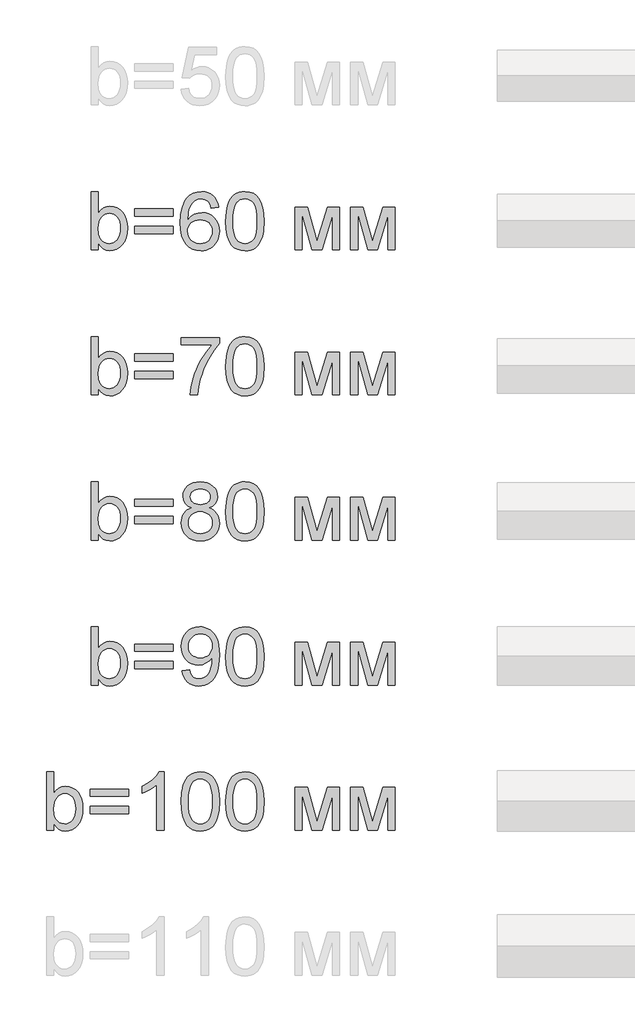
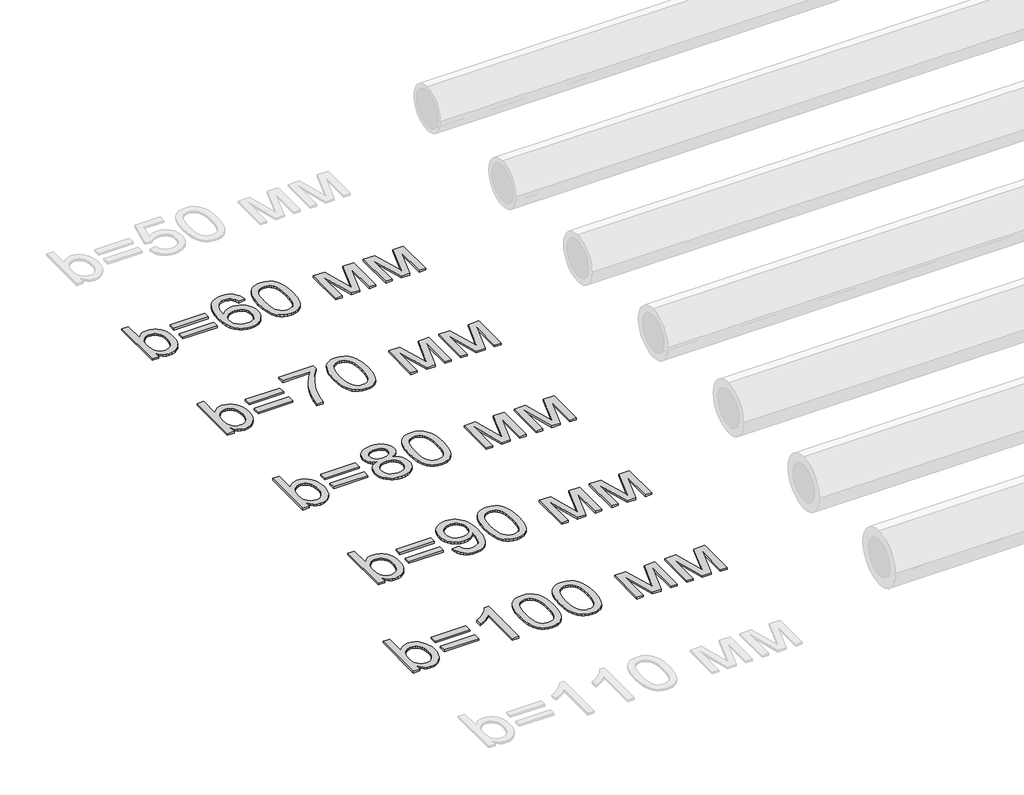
# One storey, part 64 of 86: 5 proxies.
"""IFC4 building model written with IfcOpenShell, lengths in millimetres."""

from ifc_helpers import new_model, si_unit, origin, origin_with_axes, place, context, project, spatial, polyline, outline, extrude, element, save

model = new_model("IFC4")

# Units and contexts
model_context = context("Model", 3, world=origin())
ifc_project = project(units=[si_unit("LENGTHUNIT", "METRE", prefix="MILLI")], contexts=[model_context])

# Site, building, storey
site = spatial("IfcSite", under=ifc_project)
building = spatial("IfcBuilding", under=site)
storey = spatial("IfcBuildingStorey", under=building, Name="Уровень 1", Elevation=0.0)

# Proxies
placement = place(None, origin())
element("IfcBuildingElementProxy", 1, Name="Текст модели 1", ObjectType="Текст модели 1", at=placement, inside=storey, context=model_context, shape_type="SweptSolid", body=[
    extrude(outline(polyline([(71159.6307988, 21669.2937088), (71084.2885662, 21669.2937088), (71084.2885662, 22272.0315697), (71159.6307988, 22272.0315697), (71159.6307988, 22048.5064694), (71184.4076512, 22080.3742473), (71212.3850769, 22103.1369457), (71243.563076, 22116.7945648), (71277.9416484, 22121.3471045), (71316.7531989, 22117.2452202), (71353.4310339, 22104.9395675), (71385.8782258, 22085.2026984), (71411.9978475, 22058.8071653), (71432.4704805, 22026.0104854), (71447.9767066, 21987.0701762), (71457.7439736, 21943.6049185), (71460.9997292, 21897.233393), (71457.6290105, 21843.7249568), (71447.5168541, 21796.6544555), (71430.6632602, 21756.0218892), (71407.0682288, 21721.8272577), (71378.7459136, 21694.7235517), (71347.7104688, 21675.3637617), (71313.9618943, 21663.7478877), (71277.50019, 21659.8759297), (71241.9903805, 21664.8699278), (71210.5088787, 21679.8519221), (71183.0556848, 21704.8219125), (71159.6307988, 21739.7798991), (71159.6307988, 21669.2937088)]), holes=[polyline([(71159.6307988, 21893.7017259), (71164.7811467, 21830.8674811), (71171.2190816, 21807.065516), (71180.2321905, 21788.3403224), (71198.4883345, 21765.0993774), (71219.7059286, 21748.4987024), (71243.8849727, 21738.5382973), (71271.0254669, 21735.2181623), (71293.5582391, 21737.6645776), (71314.5091188, 21745.0038234), (71333.8781058, 21757.2358997), (71351.6652003, 21774.3608066), (71366.5368299, 21796.3325588), (71377.1594225, 21823.105171), (71383.5329781, 21854.6786432), (71385.6574966, 21891.0529755), (71383.6203501, 21928.1170865), (71377.5089104, 21959.9940614), (71367.3231777, 21986.6839001), (71353.0631519, 22008.1866028), (71335.9152524, 22024.7320955), (71317.0658986, 22036.5503046), (71296.5150907, 22043.64123), (71274.2628285, 22046.0048719), (71251.7300563, 22043.5584566), (71230.7791767, 22036.2192108), (71211.4101896, 22023.9871344), (71193.6230951, 22006.8622276), (71178.7514655, 21985.1112046), (71168.1288729, 21959.00078), (71161.7553173, 21928.5309538), (71159.6307988, 21893.7017259)])]), origin_with_axes(), (0.0, 0.0, 1.0), 20.0),
    extrude(outline(polyline([(71931.8886831, 22017.7515346), (71536.3419619, 22017.7515346), (71536.3419619, 22093.0937672), (71931.8886831, 22093.0937672), (71931.8886831, 22017.7515346)])), origin_with_axes(), (0.0, 0.0, 1.0), 20.0),
    extrude(outline(polyline([(71931.8886831, 21838.8137322), (71536.3419619, 21838.8137322), (71536.3419619, 21914.1559648), (71931.8886831, 21914.1559648), (71931.8886831, 21838.8137322)])), origin_with_axes(), (0.0, 0.0, 1.0), 20.0),
    extrude(outline(polyline([(72402.7776369, 22111.9293254), (72327.4354043, 22102.5115463), (72315.2952984, 22139.8515688), (72298.8877615, 22165.3457911), (72282.6917566, 22179.0585925), (72264.7115241, 22188.8534506), (72244.9470639, 22194.7303655), (72223.398376, 22196.6893371), (72188.3760101, 22192.1276003), (72155.4137833, 22178.4423901), (72127.1052638, 22149.6188358), (72103.9838804, 22109.9427626), (72094.9477789, 22084.6370799), (72088.3672897, 22053.8223643), (72082.5731483, 21975.6658344), (72112.7946542, 22010.9273236), (72149.0126366, 22035.7777524), (72189.2037446, 22050.5114263), (72231.3446271, 22055.4226509), (72267.5442155, 22052.0657277), (72300.9479006, 22041.9949581), (72331.5556826, 22025.2103421), (72359.3675615, 22001.7118796), (72382.4797478, 21972.8975224), (72398.9884523, 21940.1652218), (72408.8936751, 21903.5149781), (72412.195416, 21862.9467911), (72410.6411145, 21835.4798016), (72405.9782103, 21808.9968965), (72398.2067031, 21783.4980757), (72387.3265931, 21758.9833392), (72373.7241563, 21736.3677936), (72357.7856689, 21716.5665452), (72339.5111308, 21699.5795941), (72318.900542, 21685.4069402), (72296.3953609, 21674.2371231), (72272.437046, 21666.2586823), (72247.0255972, 21661.4716179), (72220.1610145, 21659.8759297), (72175.2472214, 21664.1065727), (72134.6836329, 21676.7985015), (72098.470249, 21697.9517162), (72066.6070697, 21727.5662168), (72040.6300023, 21766.8928021), (72022.0749542, 21817.1822709), (72010.9419253, 21878.4346231), (72007.2309157, 21950.6498587), (72011.351194, 22031.6114888), (72023.7120291, 22100.7089245), (72044.3134208, 22157.9421659), (72057.7043254, 22182.1097138), (72073.1553692, 22203.311213), (72104.4161418, 22233.3763691), (72140.6617153, 22254.8514805), (72181.8920899, 22267.7365474), (72228.1072656, 22272.0315697), (72262.8077348, 22269.3736223), (72294.2156601, 22261.39978), (72322.3310416, 22248.110043), (72347.1538792, 22229.5044111), (72368.0127884, 22206.2082837), (72384.2363843, 22178.8470603), (72395.8246672, 22147.4207409), (72402.7776369, 22111.9293254)]), holes=[polyline([(72082.5731483, 21864.1240134), (72086.9325499, 21830.7387224), (72100.0107549, 21798.8617475), (72120.317841, 21771.4545389), (72146.3638863, 21751.4785465), (72177.7994027, 21739.2832584), (72214.2749026, 21735.2181623), (72240.4635021, 21737.3242868), (72263.9941542, 21743.64266), (72284.8668589, 21754.1732821), (72303.0816162, 21768.9161531), (72317.8566768, 21787.2734647), (72328.4102916, 21808.6474086), (72334.7424604, 21833.0379849), (72336.8531834, 21860.4451935), (72334.7700516, 21886.7809458), (72328.5206562, 21910.1644451), (72318.1049972, 21930.5956914), (72303.5230746, 21948.0746847), (72285.253135, 21962.0771932), (72263.773425, 21972.0789849), (72239.0839446, 21978.08006), (72211.1846938, 21980.0804183), (72185.3455822, 21978.08006), (72161.5390186, 21972.0789849), (72139.765003, 21962.0771932), (72120.0235354, 21948.0746847), (72103.638991, 21930.8256177), (72091.9357451, 21911.0841501), (72084.9137975, 21888.850282), (72082.5731483, 21864.1240134)])]), origin_with_axes(), (0.0, 0.0, 1.0), 20.0),
    extrude(outline(polyline([(72478.1198695, 21965.8065969), (72483.6564935, 22062.2836501), (72490.5772736, 22103.1967265), (72500.2663656, 22139.2261694), (72512.682383, 22170.6662845), (72527.7839389, 22197.8113772), (72545.5710333, 22220.6614476), (72566.0436664, 22239.2164957), (72589.2708158, 22253.5730906), (72615.3214596, 22263.8278012), (72644.1955977, 22269.9806276), (72675.8932301, 22272.0315697), (72722.3199379, 22267.1755274), (72763.8906034, 22252.6074004), (72798.6554519, 22228.8974058), (72824.664709, 22196.6157607), (72844.3096075, 22156.0383766), (72859.9813805, 22107.4411651), (72870.2452882, 22045.7289604), (72873.6665907, 21965.8065969), (72868.185149, 21869.8813667), (72861.3333468, 21829.106246), (72851.7408238, 21793.1227884), (72839.4213755, 21761.6688778), (72824.3887975, 21734.4823983), (72806.6430897, 21711.56335), (72786.1842523, 21692.9117329), (72762.9295116, 21678.458569), (72736.7960944, 21668.1348805), (72707.7840006, 21661.9406674), (72675.8932301, 21659.8759297), (72634.3961411, 21663.4627792), (72597.6079415, 21674.2233275), (72565.5286316, 21692.1575748), (72538.1582111, 21717.265521), (72511.8914367, 21762.6529621), (72493.1294549, 21819.2056218), (72481.8722659, 21886.9235001), (72478.1198695, 21965.8065969)]), holes=[polyline([(72553.4621021, 21965.9537497), (72555.6693941, 21900.456959), (72562.29127, 21847.440565), (72573.3277299, 21806.9045676), (72588.7787737, 21778.848967), (72607.467179, 21759.7604899), (72628.2157235, 21746.1258635), (72651.0244072, 21737.9450876), (72675.8932301, 21735.2181623), (72700.762053, 21737.9542847), (72723.5707367, 21746.1626517), (72744.3192812, 21759.8432634), (72763.0076866, 21778.9961198), (72778.4587304, 21807.0977057), (72789.4951902, 21847.624506), (72796.1170661, 21900.5765206), (72798.3243581, 21965.9537497), (72796.1906425, 22029.7168965), (72789.7894958, 22081.79979), (72779.120918, 22122.2024301), (72764.184909, 22150.9248169), (72745.8092033, 22170.9467945), (72724.8215355, 22185.248207), (72701.2219055, 22193.8290546), (72675.0103133, 22196.6893371), (72650.2702492, 22194.1693454), (72627.8478415, 22186.6093704), (72607.7430905, 22174.0094121), (72589.955996, 22156.3694704), (72573.9899175, 22125.0995008), (72562.5855756, 22082.9402242), (72555.7429705, 22029.8916405), (72553.4621021, 21965.9537497)])]), origin_with_axes(), (0.0, 0.0, 1.0), 20.0),
    extrude(outline(polyline([(73193.8710793, 22111.9293254), (73323.5126944, 22111.9293254), (73423.4294443, 21757.5853876), (73531.1452925, 22111.9293254), (73655.3422541, 22111.9293254), (73655.3422541, 21669.2937088), (73580.0000215, 21669.2937088), (73580.0000215, 22025.6977857), (73471.6955621, 21669.2937088), (73372.8088818, 21669.2937088), (73269.2133119, 22042.7675103), (73269.2133119, 21669.2937088), (73193.8710793, 21669.2937088), (73193.8710793, 22111.9293254)])), origin_with_axes(), (0.0, 0.0, 1.0), 20.0),
    extrude(outline(polyline([(73768.355603, 22111.9293254), (73897.9972181, 22111.9293254), (73997.913968, 21757.5853876), (74105.6298162, 22111.9293254), (74229.8267777, 22111.9293254), (74229.8267777, 21669.2937088), (74154.4845451, 21669.2937088), (74154.4845451, 22025.6977857), (74046.1800857, 21669.2937088), (73947.2934054, 21669.2937088), (73843.6978356, 22042.7675103), (73843.6978356, 21669.2937088), (73768.355603, 21669.2937088), (73768.355603, 22111.9293254)])), origin_with_axes(), (0.0, 0.0, 1.0), 20.0),
])
element("IfcBuildingElementProxy", 2, Name="Текст модели 1", ObjectType="Текст модели 1", at=placement, inside=storey, context=model_context, shape_type="SweptSolid", body=[
    extrude(outline(polyline([(71159.6307988, 20169.2937088), (71084.2885662, 20169.2937088), (71084.2885662, 20772.0315697), (71159.6307988, 20772.0315697), (71159.6307988, 20548.5064694), (71184.4076512, 20580.3742473), (71212.3850769, 20603.1369457), (71243.563076, 20616.7945648), (71277.9416484, 20621.3471045), (71316.7531989, 20617.2452202), (71353.4310339, 20604.9395675), (71385.8782258, 20585.2026984), (71411.9978475, 20558.8071653), (71432.4704805, 20526.0104854), (71447.9767066, 20487.0701762), (71457.7439736, 20443.6049185), (71460.9997292, 20397.233393), (71457.6290105, 20343.7249568), (71447.5168541, 20296.6544555), (71430.6632602, 20256.0218892), (71407.0682288, 20221.8272577), (71378.7459136, 20194.7235517), (71347.7104688, 20175.3637617), (71313.9618943, 20163.7478877), (71277.50019, 20159.8759297), (71241.9903805, 20164.8699278), (71210.5088787, 20179.8519221), (71183.0556848, 20204.8219125), (71159.6307988, 20239.7798991), (71159.6307988, 20169.2937088)]), holes=[polyline([(71159.6307988, 20393.7017259), (71164.7811467, 20330.8674811), (71171.2190816, 20307.065516), (71180.2321905, 20288.3403224), (71198.4883345, 20265.0993774), (71219.7059286, 20248.4987024), (71243.8849727, 20238.5382973), (71271.0254669, 20235.2181623), (71293.5582391, 20237.6645776), (71314.5091188, 20245.0038234), (71333.8781058, 20257.2358997), (71351.6652003, 20274.3608066), (71366.5368299, 20296.3325588), (71377.1594225, 20323.105171), (71383.5329781, 20354.6786432), (71385.6574966, 20391.0529755), (71383.6203501, 20428.1170865), (71377.5089104, 20459.9940614), (71367.3231777, 20486.6839001), (71353.0631519, 20508.1866028), (71335.9152524, 20524.7320955), (71317.0658986, 20536.5503046), (71296.5150907, 20543.64123), (71274.2628285, 20546.0048719), (71251.7300563, 20543.5584566), (71230.7791767, 20536.2192108), (71211.4101896, 20523.9871344), (71193.6230951, 20506.8622276), (71178.7514655, 20485.1112046), (71168.1288729, 20459.00078), (71161.7553173, 20428.5309538), (71159.6307988, 20393.7017259)])]), origin_with_axes(), (0.0, 0.0, 1.0), 20.0),
    extrude(outline(polyline([(71931.8886831, 20517.7515346), (71536.3419619, 20517.7515346), (71536.3419619, 20593.0937672), (71931.8886831, 20593.0937672), (71931.8886831, 20517.7515346)])), origin_with_axes(), (0.0, 0.0, 1.0), 20.0),
    extrude(outline(polyline([(71931.8886831, 20338.8137322), (71536.3419619, 20338.8137322), (71536.3419619, 20414.1559648), (71931.8886831, 20414.1559648), (71931.8886831, 20338.8137322)])), origin_with_axes(), (0.0, 0.0, 1.0), 20.0),
    extrude(outline(polyline([(72016.6486948, 20687.271558), (72016.6486948, 20762.6137906), (72412.195416, 20762.6137906), (72412.195416, 20701.6925322), (72355.8175002, 20630.3418193), (72299.9914074, 20539.6037251), (72250.7504024, 20437.7555948), (72230.861782, 20385.7692703), (72214.1277498, 20333.0747731), (72196.1751084, 20254.7526963), (72186.1687181, 20169.2937088), (72110.8264855, 20169.2937088), (72118.9750717, 20246.953598), (72140.7720799, 20339.2551906), (72156.6415895, 20388.6203558), (72175.628899, 20437.0934072), (72197.7340084, 20484.6743447), (72222.9569177, 20531.3631685), (72278.2127933, 20616.5830326), (72336.8531834, 20687.271558), (72016.6486948, 20687.271558)])), origin_with_axes(), (0.0, 0.0, 1.0), 20.0),
    extrude(outline(polyline([(72478.1198695, 20465.8065969), (72483.6564935, 20562.2836501), (72490.5772736, 20603.1967265), (72500.2663656, 20639.2261694), (72512.682383, 20670.6662845), (72527.7839389, 20697.8113772), (72545.5710333, 20720.6614476), (72566.0436664, 20739.2164957), (72589.2708158, 20753.5730906), (72615.3214596, 20763.8278012), (72644.1955977, 20769.9806276), (72675.8932301, 20772.0315697), (72722.3199379, 20767.1755274), (72763.8906034, 20752.6074004), (72798.6554519, 20728.8974058), (72824.664709, 20696.6157607), (72844.3096075, 20656.0383766), (72859.9813805, 20607.4411651), (72870.2452882, 20545.7289604), (72873.6665907, 20465.8065969), (72868.185149, 20369.8813667), (72861.3333468, 20329.106246), (72851.7408238, 20293.1227884), (72839.4213755, 20261.6688778), (72824.3887975, 20234.4823983), (72806.6430897, 20211.56335), (72786.1842523, 20192.9117329), (72762.9295116, 20178.458569), (72736.7960944, 20168.1348805), (72707.7840006, 20161.9406674), (72675.8932301, 20159.8759297), (72634.3961411, 20163.4627792), (72597.6079415, 20174.2233275), (72565.5286316, 20192.1575748), (72538.1582111, 20217.265521), (72511.8914367, 20262.6529621), (72493.1294549, 20319.2056218), (72481.8722659, 20386.9235001), (72478.1198695, 20465.8065969)]), holes=[polyline([(72553.4621021, 20465.9537497), (72555.6693941, 20400.456959), (72562.29127, 20347.440565), (72573.3277299, 20306.9045676), (72588.7787737, 20278.848967), (72607.467179, 20259.7604899), (72628.2157235, 20246.1258635), (72651.0244072, 20237.9450876), (72675.8932301, 20235.2181623), (72700.762053, 20237.9542847), (72723.5707367, 20246.1626517), (72744.3192812, 20259.8432634), (72763.0076866, 20278.9961198), (72778.4587304, 20307.0977057), (72789.4951902, 20347.624506), (72796.1170661, 20400.5765206), (72798.3243581, 20465.9537497), (72796.1906425, 20529.7168965), (72789.7894958, 20581.79979), (72779.120918, 20622.2024301), (72764.184909, 20650.9248169), (72745.8092033, 20670.9467945), (72724.8215355, 20685.248207), (72701.2219055, 20693.8290546), (72675.0103133, 20696.6893371), (72650.2702492, 20694.1693454), (72627.8478415, 20686.6093704), (72607.7430905, 20674.0094121), (72589.955996, 20656.3694704), (72573.9899175, 20625.0995008), (72562.5855756, 20582.9402242), (72555.7429705, 20529.8916405), (72553.4621021, 20465.9537497)])]), origin_with_axes(), (0.0, 0.0, 1.0), 20.0),
    extrude(outline(polyline([(73193.8710793, 20611.9293254), (73323.5126944, 20611.9293254), (73423.4294443, 20257.5853876), (73531.1452925, 20611.9293254), (73655.3422541, 20611.9293254), (73655.3422541, 20169.2937088), (73580.0000215, 20169.2937088), (73580.0000215, 20525.6977857), (73471.6955621, 20169.2937088), (73372.8088818, 20169.2937088), (73269.2133119, 20542.7675103), (73269.2133119, 20169.2937088), (73193.8710793, 20169.2937088), (73193.8710793, 20611.9293254)])), origin_with_axes(), (0.0, 0.0, 1.0), 20.0),
    extrude(outline(polyline([(73768.355603, 20611.9293254), (73897.9972181, 20611.9293254), (73997.913968, 20257.5853876), (74105.6298162, 20611.9293254), (74229.8267777, 20611.9293254), (74229.8267777, 20169.2937088), (74154.4845451, 20169.2937088), (74154.4845451, 20525.6977857), (74046.1800857, 20169.2937088), (73947.2934054, 20169.2937088), (73843.6978356, 20542.7675103), (73843.6978356, 20169.2937088), (73768.355603, 20169.2937088), (73768.355603, 20611.9293254)])), origin_with_axes(), (0.0, 0.0, 1.0), 20.0),
])
element("IfcBuildingElementProxy", 3, Name="Текст модели 1", ObjectType="Текст модели 1", at=placement, inside=storey, context=model_context, shape_type="SweptSolid", body=[
    extrude(outline(polyline([(71159.6307988, 18669.2937088), (71084.2885662, 18669.2937088), (71084.2885662, 19272.0315697), (71159.6307988, 19272.0315697), (71159.6307988, 19048.5064694), (71184.4076512, 19080.3742473), (71212.3850769, 19103.1369457), (71243.563076, 19116.7945648), (71277.9416484, 19121.3471045), (71316.7531989, 19117.2452202), (71353.4310339, 19104.9395675), (71385.8782258, 19085.2026984), (71411.9978475, 19058.8071653), (71432.4704805, 19026.0104854), (71447.9767066, 18987.0701762), (71457.7439736, 18943.6049185), (71460.9997292, 18897.233393), (71457.6290105, 18843.7249568), (71447.5168541, 18796.6544555), (71430.6632602, 18756.0218892), (71407.0682288, 18721.8272577), (71378.7459136, 18694.7235517), (71347.7104688, 18675.3637617), (71313.9618943, 18663.7478877), (71277.50019, 18659.8759297), (71241.9903805, 18664.8699278), (71210.5088787, 18679.8519221), (71183.0556848, 18704.8219125), (71159.6307988, 18739.7798991), (71159.6307988, 18669.2937088)]), holes=[polyline([(71159.6307988, 18893.7017259), (71164.7811467, 18830.8674811), (71171.2190816, 18807.065516), (71180.2321905, 18788.3403224), (71198.4883345, 18765.0993774), (71219.7059286, 18748.4987024), (71243.8849727, 18738.5382973), (71271.0254669, 18735.2181623), (71293.5582391, 18737.6645776), (71314.5091188, 18745.0038234), (71333.8781058, 18757.2358997), (71351.6652003, 18774.3608066), (71366.5368299, 18796.3325588), (71377.1594225, 18823.105171), (71383.5329781, 18854.6786432), (71385.6574966, 18891.0529755), (71383.6203501, 18928.1170865), (71377.5089104, 18959.9940614), (71367.3231777, 18986.6839001), (71353.0631519, 19008.1866028), (71335.9152524, 19024.7320955), (71317.0658986, 19036.5503046), (71296.5150907, 19043.64123), (71274.2628285, 19046.0048719), (71251.7300563, 19043.5584566), (71230.7791767, 19036.2192108), (71211.4101896, 19023.9871344), (71193.6230951, 19006.8622276), (71178.7514655, 18985.1112046), (71168.1288729, 18959.00078), (71161.7553173, 18928.5309538), (71159.6307988, 18893.7017259)])]), origin_with_axes(), (0.0, 0.0, 1.0), 20.0),
    extrude(outline(polyline([(71931.8886831, 19017.7515346), (71536.3419619, 19017.7515346), (71536.3419619, 19093.0937672), (71931.8886831, 19093.0937672), (71931.8886831, 19017.7515346)])), origin_with_axes(), (0.0, 0.0, 1.0), 20.0),
    extrude(outline(polyline([(71931.8886831, 18838.8137322), (71536.3419619, 18838.8137322), (71536.3419619, 18914.1559648), (71931.8886831, 18914.1559648), (71931.8886831, 18838.8137322)])), origin_with_axes(), (0.0, 0.0, 1.0), 20.0),
    extrude(outline(polyline([(72126.4246821, 19001.2704212), (72086.0864213, 19021.136049), (72070.4284439, 19033.7176132), (72057.7779018, 19048.065011), (72041.0576651, 19081.5054844), (72035.4842529, 19120.9056461), (72038.5192794, 19151.6329897), (72047.6243588, 19179.8035535), (72062.7994911, 19205.4173374), (72084.0446763, 19228.4743415), (72110.3390419, 19247.5306288), (72140.6617153, 19261.1422626), (72175.0126966, 19269.3092429), (72213.3919858, 19272.0315697), (72251.9552159, 19269.2448636), (72286.5637146, 19260.8847452), (72317.2174819, 19246.9512147), (72343.9165177, 19227.4442719), (72365.547979, 19203.9366124), (72380.9990228, 19178.0009317), (72390.2696491, 19149.6372299), (72393.3598578, 19118.8455069), (72387.860022, 19080.7145381), (72371.3605145, 19047.8442818), (72358.9398986, 19033.593453), (72343.6773944, 19021.0808667), (72304.6267206, 19001.2704212), (72329.3897774, 18990.7352006), (72350.9982461, 18977.3764857), (72369.4521267, 18961.1942764), (72384.7514191, 18942.1885728), (72396.7581677, 18920.7824392), (72405.3344168, 18897.3989399), (72410.4801662, 18872.0380749), (72412.195416, 18844.6998441), (72408.7925075, 18807.1206983), (72398.5837822, 18772.6685494), (72381.5692399, 18741.3433976), (72357.7488807, 18713.1452426), (72328.3735034, 18689.8399182), (72294.6939067, 18673.1932579), (72256.7100907, 18663.2052618), (72214.4220554, 18659.8759297), (72172.13402, 18663.2190574), (72134.150204, 18673.2484402), (72100.4706074, 18689.9640784), (72071.09523, 18713.3659718), (72047.2748709, 18741.7618633), (72030.2603286, 18773.4594957), (72020.0516032, 18808.458869), (72016.6486948, 18846.7599833), (72018.4329224, 18875.3444143), (72023.7856055, 18901.5008242), (72032.7067438, 18925.2292128), (72045.1963376, 18946.5295804), (72060.9784752, 18965.0156506), (72079.7772451, 18980.3011475), (72101.5926474, 18992.3860711), (72126.4246821, 19001.2704212)]), holes=[polyline([(72110.8264855, 19118.6983541), (72112.4957501, 19101.4262944), (72117.5035437, 19085.8097037), (72125.8498665, 19071.848582), (72137.5347184, 19059.5429293), (72152.4109466, 19049.4997508), (72170.3313982, 19042.3260519), (72191.2960734, 19038.0218326), (72215.3049722, 19036.5870928), (72238.7206611, 19038.0126355), (72259.2300824, 19042.2892637), (72276.8332358, 19049.4169774), (72291.5301216, 19059.3957765), (72303.1184044, 19071.4439118), (72311.3957493, 19084.7796342), (72316.3621562, 19099.4029435), (72318.0176252, 19115.3138398), (72316.3069739, 19131.8455369), (72311.1750201, 19147.0068736), (72302.6217637, 19160.7978499), (72290.6472048, 19173.2184658), (72275.6192253, 19183.486972), (72257.9057072, 19190.8216193), (72237.5066506, 19195.2224076), (72214.4220554, 19196.6893371), (72191.1581177, 19195.2545973), (72170.662492, 19190.950378), (72152.9351784, 19183.7766791), (72137.9761768, 19173.7335006), (72126.0981868, 19161.6853652), (72117.6139083, 19148.4967957), (72112.5233412, 19134.167792), (72110.8264855, 19118.6983541)]), polyline([(72091.9909274, 18849.4087336), (72095.1363184, 18820.5851793), (72104.5724916, 18792.68133), (72121.9917041, 18768.345936), (72149.086213, 18750.2277477), (72181.533405, 18738.9705587), (72215.0106666, 18735.2181623), (72242.2523283, 18737.1909295), (72266.2934167, 18743.1092311), (72287.1339317, 18752.9730671), (72304.7738734, 18766.7824375), (72318.8085715, 18783.6360314), (72328.8333559, 18802.632538), (72334.8482265, 18823.7719571), (72336.8531834, 18847.0542889), (72334.7838471, 18870.7091012), (72328.5758385, 18892.2301979), (72318.2291574, 18911.617579), (72303.7438038, 18928.8712446), (72285.6256155, 18943.0347014), (72264.3804303, 18953.1514563), (72240.0082481, 18959.2215092), (72212.509069, 18961.2448602), (72185.6674789, 18959.2491003), (72161.9436888, 18953.2618209), (72141.3376985, 18943.2830218), (72123.8495082, 18929.312703), (72109.9113791, 18912.344146), (72099.9555726, 18893.3706321), (72093.9820887, 18872.3921613), (72091.9909274, 18849.4087336)])]), origin_with_axes(), (0.0, 0.0, 1.0), 20.0),
    extrude(outline(polyline([(72478.1198695, 18965.8065969), (72483.6564935, 19062.2836501), (72490.5772736, 19103.1967265), (72500.2663656, 19139.2261694), (72512.682383, 19170.6662845), (72527.7839389, 19197.8113772), (72545.5710333, 19220.6614476), (72566.0436664, 19239.2164957), (72589.2708158, 19253.5730906), (72615.3214596, 19263.8278012), (72644.1955977, 19269.9806276), (72675.8932301, 19272.0315697), (72722.3199379, 19267.1755274), (72763.8906034, 19252.6074004), (72798.6554519, 19228.8974058), (72824.664709, 19196.6157607), (72844.3096075, 19156.0383766), (72859.9813805, 19107.4411651), (72870.2452882, 19045.7289604), (72873.6665907, 18965.8065969), (72868.185149, 18869.8813667), (72861.3333468, 18829.106246), (72851.7408238, 18793.1227884), (72839.4213755, 18761.6688778), (72824.3887975, 18734.4823983), (72806.6430897, 18711.56335), (72786.1842523, 18692.9117329), (72762.9295116, 18678.458569), (72736.7960944, 18668.1348805), (72707.7840006, 18661.9406674), (72675.8932301, 18659.8759297), (72634.3961411, 18663.4627792), (72597.6079415, 18674.2233275), (72565.5286316, 18692.1575748), (72538.1582111, 18717.265521), (72511.8914367, 18762.6529621), (72493.1294549, 18819.2056218), (72481.8722659, 18886.9235001), (72478.1198695, 18965.8065969)]), holes=[polyline([(72553.4621021, 18965.9537497), (72555.6693941, 18900.456959), (72562.29127, 18847.440565), (72573.3277299, 18806.9045676), (72588.7787737, 18778.848967), (72607.467179, 18759.7604899), (72628.2157235, 18746.1258635), (72651.0244072, 18737.9450876), (72675.8932301, 18735.2181623), (72700.762053, 18737.9542847), (72723.5707367, 18746.1626517), (72744.3192812, 18759.8432634), (72763.0076866, 18778.9961198), (72778.4587304, 18807.0977057), (72789.4951902, 18847.624506), (72796.1170661, 18900.5765206), (72798.3243581, 18965.9537497), (72796.1906425, 19029.7168965), (72789.7894958, 19081.79979), (72779.120918, 19122.2024301), (72764.184909, 19150.9248169), (72745.8092033, 19170.9467945), (72724.8215355, 19185.248207), (72701.2219055, 19193.8290546), (72675.0103133, 19196.6893371), (72650.2702492, 19194.1693454), (72627.8478415, 19186.6093704), (72607.7430905, 19174.0094121), (72589.955996, 19156.3694704), (72573.9899175, 19125.0995008), (72562.5855756, 19082.9402242), (72555.7429705, 19029.8916405), (72553.4621021, 18965.9537497)])]), origin_with_axes(), (0.0, 0.0, 1.0), 20.0),
    extrude(outline(polyline([(73193.8710793, 19111.9293254), (73323.5126944, 19111.9293254), (73423.4294443, 18757.5853876), (73531.1452925, 19111.9293254), (73655.3422541, 19111.9293254), (73655.3422541, 18669.2937088), (73580.0000215, 18669.2937088), (73580.0000215, 19025.6977857), (73471.6955621, 18669.2937088), (73372.8088818, 18669.2937088), (73269.2133119, 19042.7675103), (73269.2133119, 18669.2937088), (73193.8710793, 18669.2937088), (73193.8710793, 19111.9293254)])), origin_with_axes(), (0.0, 0.0, 1.0), 20.0),
    extrude(outline(polyline([(73768.355603, 19111.9293254), (73897.9972181, 19111.9293254), (73997.913968, 18757.5853876), (74105.6298162, 19111.9293254), (74229.8267777, 19111.9293254), (74229.8267777, 18669.2937088), (74154.4845451, 18669.2937088), (74154.4845451, 19025.6977857), (74046.1800857, 18669.2937088), (73947.2934054, 18669.2937088), (73843.6978356, 19042.7675103), (73843.6978356, 18669.2937088), (73768.355603, 18669.2937088), (73768.355603, 19111.9293254)])), origin_with_axes(), (0.0, 0.0, 1.0), 20.0),
])
element("IfcBuildingElementProxy", 4, Name="Текст модели 1", ObjectType="Текст модели 1", at=placement, inside=storey, context=model_context, shape_type="SweptSolid", body=[
    extrude(outline(polyline([(71159.6307988, 17169.2937088), (71084.2885662, 17169.2937088), (71084.2885662, 17772.0315697), (71159.6307988, 17772.0315697), (71159.6307988, 17548.5064694), (71184.4076512, 17580.3742473), (71212.3850769, 17603.1369457), (71243.563076, 17616.7945648), (71277.9416484, 17621.3471045), (71316.7531989, 17617.2452202), (71353.4310339, 17604.9395675), (71385.8782258, 17585.2026984), (71411.9978475, 17558.8071653), (71432.4704805, 17526.0104854), (71447.9767066, 17487.0701762), (71457.7439736, 17443.6049185), (71460.9997292, 17397.233393), (71457.6290105, 17343.7249568), (71447.5168541, 17296.6544555), (71430.6632602, 17256.0218892), (71407.0682288, 17221.8272577), (71378.7459136, 17194.7235517), (71347.7104688, 17175.3637617), (71313.9618943, 17163.7478877), (71277.50019, 17159.8759297), (71241.9903805, 17164.8699278), (71210.5088787, 17179.8519221), (71183.0556848, 17204.8219125), (71159.6307988, 17239.7798991), (71159.6307988, 17169.2937088)]), holes=[polyline([(71159.6307988, 17393.7017259), (71164.7811467, 17330.8674811), (71171.2190816, 17307.065516), (71180.2321905, 17288.3403224), (71198.4883345, 17265.0993774), (71219.7059286, 17248.4987024), (71243.8849727, 17238.5382973), (71271.0254669, 17235.2181623), (71293.5582391, 17237.6645776), (71314.5091188, 17245.0038234), (71333.8781058, 17257.2358997), (71351.6652003, 17274.3608066), (71366.5368299, 17296.3325588), (71377.1594225, 17323.105171), (71383.5329781, 17354.6786432), (71385.6574966, 17391.0529755), (71383.6203501, 17428.1170865), (71377.5089104, 17459.9940614), (71367.3231777, 17486.6839001), (71353.0631519, 17508.1866028), (71335.9152524, 17524.7320955), (71317.0658986, 17536.5503046), (71296.5150907, 17543.64123), (71274.2628285, 17546.0048719), (71251.7300563, 17543.5584566), (71230.7791767, 17536.2192108), (71211.4101896, 17523.9871344), (71193.6230951, 17506.8622276), (71178.7514655, 17485.1112046), (71168.1288729, 17459.00078), (71161.7553173, 17428.5309538), (71159.6307988, 17393.7017259)])]), origin_with_axes(), (0.0, 0.0, 1.0), 20.0),
    extrude(outline(polyline([(71931.8886831, 17517.7515346), (71536.3419619, 17517.7515346), (71536.3419619, 17593.0937672), (71931.8886831, 17593.0937672), (71931.8886831, 17517.7515346)])), origin_with_axes(), (0.0, 0.0, 1.0), 20.0),
    extrude(outline(polyline([(71931.8886831, 17338.8137322), (71536.3419619, 17338.8137322), (71536.3419619, 17414.1559648), (71931.8886831, 17414.1559648), (71931.8886831, 17338.8137322)])), origin_with_axes(), (0.0, 0.0, 1.0), 20.0),
    extrude(outline(polyline([(72026.0664738, 17319.978174), (72101.4087064, 17329.3959531), (72114.2845763, 17286.6296712), (72123.7575377, 17270.3646884), (72135.25385, 17257.5118112), (72148.6447546, 17247.7583398), (72163.8014928, 17240.7915746), (72199.41247, 17235.2181623), (72231.3630212, 17238.8050118), (72260.4073048, 17249.5655601), (72284.5403636, 17266.322585), (72301.757241, 17287.898864), (72314.7986577, 17316.2625659), (72326.4053347, 17353.3818592), (72334.572315, 17395.9825942), (72337.2946418, 17440.7906212), (72336.8531834, 17455.505901), (72310.7519558, 17423.6473203), (72276.5941126, 17398.4106154), (72236.844463, 17381.9662902), (72193.9678164, 17376.4848485), (72158.1774968, 17379.8325746), (72125.2658538, 17389.8757531), (72095.2328875, 17406.6143839), (72068.0785977, 17430.048467), (72045.5780152, 17458.9547948), (72029.5061705, 17492.1101596), (72019.8630637, 17529.5145614), (72016.6486948, 17571.1680003), (72020.0194135, 17614.2101938), (72030.1315699, 17652.8378033), (72046.9851638, 17687.0508288), (72070.5801953, 17716.8492704), (72099.2519983, 17740.9915264), (72131.3359068, 17758.2359949), (72166.8319208, 17768.582676), (72205.7400403, 17772.0315697), (72234.4670256, 17770.063401), (72261.934015, 17764.158895), (72288.1410087, 17754.3180516), (72313.0880065, 17740.5408709), (72335.9426754, 17723.1216584), (72355.8726825, 17702.3547198), (72372.8780277, 17678.240055), (72386.9587111, 17650.7776641), (72397.9997695, 17618.3856544), (72405.8862398, 17579.4821334), (72410.6181219, 17534.0671011), (72412.195416, 17482.1405575), (72410.6227204, 17427.6066502), (72405.9046339, 17378.9312638), (72398.0411562, 17336.114398), (72387.0322875, 17299.1560531), (72372.9194145, 17267.154918), (72355.7439238, 17239.209682), (72335.5058156, 17215.3203449), (72312.2050897, 17195.4869069), (72286.3107957, 17179.9071044), (72258.2919833, 17168.778674), (72228.1486523, 17162.1016158), (72195.8808028, 17159.8759297), (72162.0448563, 17162.5016875), (72131.4646655, 17170.3789607), (72104.1402303, 17183.5077494), (72080.0715507, 17201.8880536), (72059.8656321, 17225.0232325), (72044.1294798, 17252.4166456), (72032.8630937, 17284.0682928), (72026.0664738, 17319.978174)]), holes=[polyline([(72336.8531834, 17572.9338339), (72334.8206353, 17599.9363724), (72328.7229913, 17623.9958548), (72318.5602511, 17645.1122814), (72304.332415, 17663.2856519), (72286.7384586, 17677.8997642), (72266.4773577, 17688.3384158), (72243.5491123, 17694.6016068), (72217.9537225, 17696.6893371), (72191.5397953, 17694.4406584), (72167.6274656, 17687.6946223), (72146.2167335, 17676.4512288), (72127.3075989, 17660.710478), (72111.8565551, 17641.3920747), (72100.8200953, 17619.415724), (72094.1982193, 17594.7814259), (72091.9909274, 17567.4891804), (72094.0786577, 17543.0112321), (72100.3418487, 17520.9337139), (72110.7805003, 17501.2566257), (72125.3946125, 17483.9799675), (72143.5771801, 17469.9130797), (72164.7211978, 17459.8653027), (72188.8266656, 17453.8366365), (72215.8935833, 17451.8270811), (72241.1348867, 17453.8366365), (72264.0309424, 17459.8653027), (72284.5817504, 17469.9130797), (72302.7873106, 17483.9799675), (72317.6911299, 17501.5969165), (72328.3367152, 17522.2948773), (72334.7240663, 17546.0738497), (72336.8531834, 17572.9338339)])]), origin_with_axes(), (0.0, 0.0, 1.0), 20.0),
    extrude(outline(polyline([(72478.1198695, 17465.8065969), (72483.6564935, 17562.2836501), (72490.5772736, 17603.1967265), (72500.2663656, 17639.2261694), (72512.682383, 17670.6662845), (72527.7839389, 17697.8113772), (72545.5710333, 17720.6614476), (72566.0436664, 17739.2164957), (72589.2708158, 17753.5730906), (72615.3214596, 17763.8278012), (72644.1955977, 17769.9806276), (72675.8932301, 17772.0315697), (72722.3199379, 17767.1755274), (72763.8906034, 17752.6074004), (72798.6554519, 17728.8974058), (72824.664709, 17696.6157607), (72844.3096075, 17656.0383766), (72859.9813805, 17607.4411651), (72870.2452882, 17545.7289604), (72873.6665907, 17465.8065969), (72868.185149, 17369.8813667), (72861.3333468, 17329.106246), (72851.7408238, 17293.1227884), (72839.4213755, 17261.6688778), (72824.3887975, 17234.4823983), (72806.6430897, 17211.56335), (72786.1842523, 17192.9117329), (72762.9295116, 17178.458569), (72736.7960944, 17168.1348805), (72707.7840006, 17161.9406674), (72675.8932301, 17159.8759297), (72634.3961411, 17163.4627792), (72597.6079415, 17174.2233275), (72565.5286316, 17192.1575748), (72538.1582111, 17217.265521), (72511.8914367, 17262.6529621), (72493.1294549, 17319.2056218), (72481.8722659, 17386.9235001), (72478.1198695, 17465.8065969)]), holes=[polyline([(72553.4621021, 17465.9537497), (72555.6693941, 17400.456959), (72562.29127, 17347.440565), (72573.3277299, 17306.9045676), (72588.7787737, 17278.848967), (72607.467179, 17259.7604899), (72628.2157235, 17246.1258635), (72651.0244072, 17237.9450876), (72675.8932301, 17235.2181623), (72700.762053, 17237.9542847), (72723.5707367, 17246.1626517), (72744.3192812, 17259.8432634), (72763.0076866, 17278.9961198), (72778.4587304, 17307.0977057), (72789.4951902, 17347.624506), (72796.1170661, 17400.5765206), (72798.3243581, 17465.9537497), (72796.1906425, 17529.7168965), (72789.7894958, 17581.79979), (72779.120918, 17622.2024301), (72764.184909, 17650.9248169), (72745.8092033, 17670.9467945), (72724.8215355, 17685.248207), (72701.2219055, 17693.8290546), (72675.0103133, 17696.6893371), (72650.2702492, 17694.1693454), (72627.8478415, 17686.6093704), (72607.7430905, 17674.0094121), (72589.955996, 17656.3694704), (72573.9899175, 17625.0995008), (72562.5855756, 17582.9402242), (72555.7429705, 17529.8916405), (72553.4621021, 17465.9537497)])]), origin_with_axes(), (0.0, 0.0, 1.0), 20.0),
    extrude(outline(polyline([(73193.8710793, 17611.9293254), (73323.5126944, 17611.9293254), (73423.4294443, 17257.5853876), (73531.1452925, 17611.9293254), (73655.3422541, 17611.9293254), (73655.3422541, 17169.2937088), (73580.0000215, 17169.2937088), (73580.0000215, 17525.6977857), (73471.6955621, 17169.2937088), (73372.8088818, 17169.2937088), (73269.2133119, 17542.7675103), (73269.2133119, 17169.2937088), (73193.8710793, 17169.2937088), (73193.8710793, 17611.9293254)])), origin_with_axes(), (0.0, 0.0, 1.0), 20.0),
    extrude(outline(polyline([(73768.355603, 17611.9293254), (73897.9972181, 17611.9293254), (73997.913968, 17257.5853876), (74105.6298162, 17611.9293254), (74229.8267777, 17611.9293254), (74229.8267777, 17169.2937088), (74154.4845451, 17169.2937088), (74154.4845451, 17525.6977857), (74046.1800857, 17169.2937088), (73947.2934054, 17169.2937088), (73843.6978356, 17542.7675103), (73843.6978356, 17169.2937088), (73768.355603, 17169.2937088), (73768.355603, 17611.9293254)])), origin_with_axes(), (0.0, 0.0, 1.0), 20.0),
])
element("IfcBuildingElementProxy", 5, Name="Текст модели 1", ObjectType="Текст модели 1", at=placement, inside=storey, context=model_context, shape_type="SweptSolid", body=[
    extrude(outline(polyline([(70698.159624, 15669.2937088), (70622.8173914, 15669.2937088), (70622.8173914, 16272.0315697), (70698.159624, 16272.0315697), (70698.159624, 16048.5064694), (70722.9364764, 16080.3742473), (70750.9139022, 16103.1369457), (70782.0919012, 16116.7945648), (70816.4704737, 16121.3471045), (70855.2820242, 16117.2452202), (70891.9598591, 16104.9395675), (70924.4070511, 16085.2026984), (70950.5266727, 16058.8071653), (70970.9993058, 16026.0104854), (70986.5055319, 15987.0701762), (70996.2727988, 15943.6049185), (70999.5285545, 15897.233393), (70996.1578357, 15843.7249568), (70986.0456794, 15796.6544555), (70969.1920855, 15756.0218892), (70945.597054, 15721.8272577), (70917.2747389, 15694.7235517), (70886.2392941, 15675.3637617), (70852.4907195, 15663.7478877), (70816.0290153, 15659.8759297), (70780.5192057, 15664.8699278), (70749.037704, 15679.8519221), (70721.5845101, 15704.8219125), (70698.159624, 15739.7798991), (70698.159624, 15669.2937088)]), holes=[polyline([(70698.159624, 15893.7017259), (70703.309972, 15830.8674811), (70709.7479069, 15807.065516), (70718.7610158, 15788.3403224), (70737.0171598, 15765.0993774), (70758.2347539, 15748.4987024), (70782.413798, 15738.5382973), (70809.5542922, 15735.2181623), (70832.0870644, 15737.6645776), (70853.037944, 15745.0038234), (70872.4069311, 15757.2358997), (70890.1940255, 15774.3608066), (70905.0656552, 15796.3325588), (70915.6882478, 15823.105171), (70922.0618034, 15854.6786432), (70924.1863219, 15891.0529755), (70922.1491753, 15928.1170865), (70916.0377357, 15959.9940614), (70905.8520029, 15986.6839001), (70891.5919771, 16008.1866028), (70874.4440776, 16024.7320955), (70855.5947239, 16036.5503046), (70835.0439159, 16043.64123), (70812.7916537, 16046.0048719), (70790.2588815, 16043.5584566), (70769.3080019, 16036.2192108), (70749.9390149, 16023.9871344), (70732.1519204, 16006.8622276), (70717.2802907, 15985.1112046), (70706.6576981, 15959.00078), (70700.2841426, 15928.5309538), (70698.159624, 15893.7017259)])]), origin_with_axes(), (0.0, 0.0, 1.0), 20.0),
    extrude(outline(polyline([(71470.4175083, 16017.7515346), (71074.8707871, 16017.7515346), (71074.8707871, 16093.0937672), (71470.4175083, 16093.0937672), (71470.4175083, 16017.7515346)])), origin_with_axes(), (0.0, 0.0, 1.0), 20.0),
    extrude(outline(polyline([(71470.4175083, 15838.8137322), (71074.8707871, 15838.8137322), (71074.8707871, 15914.1559648), (71470.4175083, 15914.1559648), (71470.4175083, 15838.8137322)])), origin_with_axes(), (0.0, 0.0, 1.0), 20.0),
    extrude(outline(polyline([(71837.7108923, 15669.2937088), (71762.3686597, 15669.2937088), (71762.3686597, 16139.0054402), (71730.9147491, 16113.5664003), (71690.9995526, 16088.1641485), (71649.0977934, 16065.9624701), (71611.6841945, 16050.1251502), (71611.6841945, 16121.3471045), (71670.8580134, 16153.5367791), (71722.1223694, 16191.8332947), (71762.5342066, 16232.5578316), (71789.1504689, 16272.0315697), (71837.7108923, 16272.0315697), (71837.7108923, 15669.2937088)])), origin_with_axes(), (0.0, 0.0, 1.0), 20.0),
    extrude(outline(polyline([(72016.6486948, 15965.8065969), (72022.1853188, 16062.2836501), (72029.1060988, 16103.1967265), (72038.7951909, 16139.2261694), (72051.2112082, 16170.6662845), (72066.3127641, 16197.8113772), (72084.0998586, 16220.6614476), (72104.5724916, 16239.2164957), (72127.7996411, 16253.5730906), (72153.8502849, 16263.8278012), (72182.724423, 16269.9806276), (72214.4220554, 16272.0315697), (72260.8487632, 16267.1755274), (72302.4194286, 16252.6074004), (72337.1842772, 16228.8974058), (72363.1935342, 16196.6157607), (72382.8384328, 16156.0383766), (72398.5102058, 16107.4411651), (72408.7741134, 16045.7289604), (72412.195416, 15965.8065969), (72406.7139742, 15869.8813667), (72399.8621721, 15829.106246), (72390.2696491, 15793.1227884), (72377.9502007, 15761.6688778), (72362.9176227, 15734.4823983), (72345.171915, 15711.56335), (72324.7130775, 15692.9117329), (72301.4583369, 15678.458569), (72275.3249197, 15668.1348805), (72246.3128258, 15661.9406674), (72214.4220554, 15659.8759297), (72172.9249663, 15663.4627792), (72136.1367668, 15674.2233275), (72104.0574568, 15692.1575748), (72076.6870364, 15717.265521), (72050.4202619, 15762.6529621), (72031.6582802, 15819.2056218), (72020.4010911, 15886.9235001), (72016.6486948, 15965.8065969)]), holes=[polyline([(72091.9909274, 15965.9537497), (72094.1982193, 15900.456959), (72100.8200953, 15847.440565), (72111.8565551, 15806.9045676), (72127.3075989, 15778.848967), (72145.9960043, 15759.7604899), (72166.7445488, 15746.1258635), (72189.5532325, 15737.9450876), (72214.4220554, 15735.2181623), (72239.2908782, 15737.9542847), (72262.0995619, 15746.1626517), (72282.8481065, 15759.8432634), (72301.5365118, 15778.9961198), (72316.9875556, 15807.0977057), (72328.0240155, 15847.624506), (72334.6458914, 15900.5765206), (72336.8531834, 15965.9537497), (72334.7194678, 16029.7168965), (72328.3183211, 16081.79979), (72317.6497432, 16122.2024301), (72302.7137342, 16150.9248169), (72284.3380285, 16170.9467945), (72263.3503607, 16185.248207), (72239.7507307, 16193.8290546), (72213.5391386, 16196.6893371), (72188.7990744, 16194.1693454), (72166.3766668, 16186.6093704), (72146.2719158, 16174.0094121), (72128.4848213, 16156.3694704), (72112.5187427, 16125.0995008), (72101.1144009, 16082.9402242), (72094.2717957, 16029.8916405), (72091.9909274, 15965.9537497)])]), origin_with_axes(), (0.0, 0.0, 1.0), 20.0),
    extrude(outline(polyline([(72478.1198695, 15965.8065969), (72483.6564935, 16062.2836501), (72490.5772736, 16103.1967265), (72500.2663656, 16139.2261694), (72512.682383, 16170.6662845), (72527.7839389, 16197.8113772), (72545.5710333, 16220.6614476), (72566.0436664, 16239.2164957), (72589.2708158, 16253.5730906), (72615.3214596, 16263.8278012), (72644.1955977, 16269.9806276), (72675.8932301, 16272.0315697), (72722.3199379, 16267.1755274), (72763.8906034, 16252.6074004), (72798.6554519, 16228.8974058), (72824.664709, 16196.6157607), (72844.3096075, 16156.0383766), (72859.9813805, 16107.4411651), (72870.2452882, 16045.7289604), (72873.6665907, 15965.8065969), (72868.185149, 15869.8813667), (72861.3333468, 15829.106246), (72851.7408238, 15793.1227884), (72839.4213755, 15761.6688778), (72824.3887975, 15734.4823983), (72806.6430897, 15711.56335), (72786.1842523, 15692.9117329), (72762.9295116, 15678.458569), (72736.7960944, 15668.1348805), (72707.7840006, 15661.9406674), (72675.8932301, 15659.8759297), (72634.3961411, 15663.4627792), (72597.6079415, 15674.2233275), (72565.5286316, 15692.1575748), (72538.1582111, 15717.265521), (72511.8914367, 15762.6529621), (72493.1294549, 15819.2056218), (72481.8722659, 15886.9235001), (72478.1198695, 15965.8065969)]), holes=[polyline([(72553.4621021, 15965.9537497), (72555.6693941, 15900.456959), (72562.29127, 15847.440565), (72573.3277299, 15806.9045676), (72588.7787737, 15778.848967), (72607.467179, 15759.7604899), (72628.2157235, 15746.1258635), (72651.0244072, 15737.9450876), (72675.8932301, 15735.2181623), (72700.762053, 15737.9542847), (72723.5707367, 15746.1626517), (72744.3192812, 15759.8432634), (72763.0076866, 15778.9961198), (72778.4587304, 15807.0977057), (72789.4951902, 15847.624506), (72796.1170661, 15900.5765206), (72798.3243581, 15965.9537497), (72796.1906425, 16029.7168965), (72789.7894958, 16081.79979), (72779.120918, 16122.2024301), (72764.184909, 16150.9248169), (72745.8092033, 16170.9467945), (72724.8215355, 16185.248207), (72701.2219055, 16193.8290546), (72675.0103133, 16196.6893371), (72650.2702492, 16194.1693454), (72627.8478415, 16186.6093704), (72607.7430905, 16174.0094121), (72589.955996, 16156.3694704), (72573.9899175, 16125.0995008), (72562.5855756, 16082.9402242), (72555.7429705, 16029.8916405), (72553.4621021, 15965.9537497)])]), origin_with_axes(), (0.0, 0.0, 1.0), 20.0),
    extrude(outline(polyline([(73193.8710793, 16111.9293254), (73323.5126944, 16111.9293254), (73423.4294443, 15757.5853876), (73531.1452925, 16111.9293254), (73655.3422541, 16111.9293254), (73655.3422541, 15669.2937088), (73580.0000215, 15669.2937088), (73580.0000215, 16025.6977857), (73471.6955621, 15669.2937088), (73372.8088818, 15669.2937088), (73269.2133119, 16042.7675103), (73269.2133119, 15669.2937088), (73193.8710793, 15669.2937088), (73193.8710793, 16111.9293254)])), origin_with_axes(), (0.0, 0.0, 1.0), 20.0),
    extrude(outline(polyline([(73768.355603, 16111.9293254), (73897.9972181, 16111.9293254), (73997.913968, 15757.5853876), (74105.6298162, 16111.9293254), (74229.8267777, 16111.9293254), (74229.8267777, 15669.2937088), (74154.4845451, 15669.2937088), (74154.4845451, 16025.6977857), (74046.1800857, 15669.2937088), (73947.2934054, 15669.2937088), (73843.6978356, 16042.7675103), (73843.6978356, 15669.2937088), (73768.355603, 15669.2937088), (73768.355603, 16111.9293254)])), origin_with_axes(), (0.0, 0.0, 1.0), 20.0),
])

save(model, "model.ifc")
